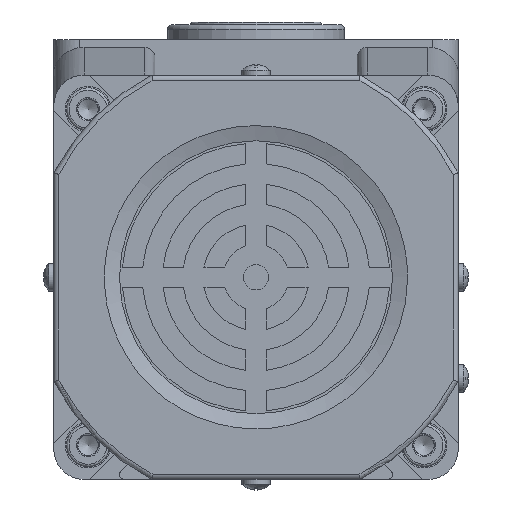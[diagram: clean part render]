
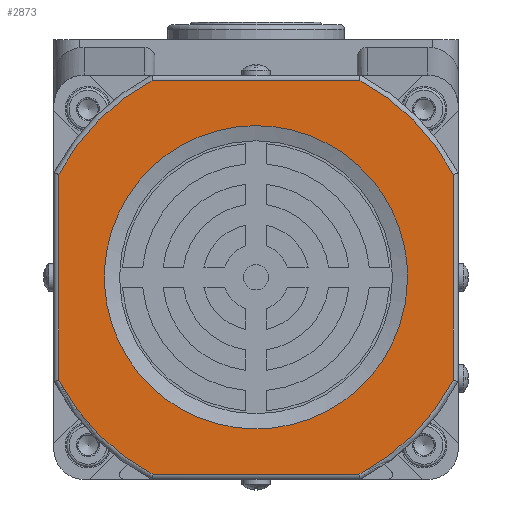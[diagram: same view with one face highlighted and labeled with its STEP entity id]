
A CAD part, front view. The second image highlights one B-rep face of the part: STEP entity #2873.
In plain terms, the highlighted planar face has unit normal (0, -1, 0).
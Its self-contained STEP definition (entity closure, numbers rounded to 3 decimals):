
#282=B_SPLINE_CURVE_WITH_KNOTS('',3,(#23627,#23628,#23629,#23630,#23631,
#23632,#23633,#23634,#23635,#23636,#23637,#23638,#23639,#23640,#23641,#23642,
#23643,#23644,#23645,#23646,#23647,#23648,#23649,#23650,#23651,#23652,#23653,
#23654,#23655,#23656,#23657,#23658,#23659,#23660,#23661,#23662,#23663,#23664,
#23665,#23666,#23667,#23668,#23669,#23670,#23671,#23672,#23673,#23674,#23675),
 .UNSPECIFIED.,.T.,.F.,(1,3,3,3,3,3,3,3,3,3,3,3,3,3,3,3,3,3,1),(-0.063,
0.,0.063,0.125,0.188,0.25,0.313,0.375,0.438,0.5,0.563,0.625,0.688,
0.75,0.813,0.875,0.938,1.,1.063),.UNSPECIFIED.);
#770=FACE_BOUND('',#4920,.T.);
#771=FACE_BOUND('',#4921,.T.);
#2873=ADVANCED_FACE('',(#770,#771),#3325,.T.);
#3325=PLANE('',#15223);
#4920=EDGE_LOOP('',(#8182));
#4921=EDGE_LOOP('',(#8183,#8184,#8185,#8186,#8187,#8188,#8189,#8190));
#8182=ORIENTED_EDGE('',*,*,#11009,.T.);
#8183=ORIENTED_EDGE('',*,*,#10994,.T.);
#8184=ORIENTED_EDGE('',*,*,#10988,.T.);
#8185=ORIENTED_EDGE('',*,*,#10990,.T.);
#8186=ORIENTED_EDGE('',*,*,#10996,.T.);
#8187=ORIENTED_EDGE('',*,*,#11002,.T.);
#8188=ORIENTED_EDGE('',*,*,#11008,.T.);
#8189=ORIENTED_EDGE('',*,*,#11006,.T.);
#8190=ORIENTED_EDGE('',*,*,#11000,.T.);
#9374=VERTEX_POINT('',#23545);
#9377=VERTEX_POINT('',#23555);
#9379=VERTEX_POINT('',#23565);
#9380=VERTEX_POINT('',#23575);
#9383=VERTEX_POINT('',#23587);
#9384=VERTEX_POINT('',#23597);
#9387=VERTEX_POINT('',#23609);
#9388=VERTEX_POINT('',#23619);
#9390=VERTEX_POINT('',#23676);
#10988=EDGE_CURVE('',#9374,#9377,#13542,.T.);
#10990=EDGE_CURVE('',#9377,#9379,#11964,.T.);
#10994=EDGE_CURVE('',#9380,#9374,#11967,.T.);
#10996=EDGE_CURVE('',#9379,#9383,#13543,.T.);
#11000=EDGE_CURVE('',#9384,#9380,#13546,.T.);
#11002=EDGE_CURVE('',#9383,#9387,#11968,.T.);
#11006=EDGE_CURVE('',#9388,#9384,#11971,.T.);
#11008=EDGE_CURVE('',#9387,#9388,#13548,.T.);
#11009=EDGE_CURVE('',#9390,#9390,#282,.T.);
#11964=LINE('',#23566,#12814);
#11967=LINE('',#23578,#12817);
#11968=LINE('',#23610,#12818);
#11971=LINE('',#23622,#12821);
#12814=VECTOR('',#18504,1.);
#12817=VECTOR('',#18509,1.);
#12818=VECTOR('',#18524,1.);
#12821=VECTOR('',#18529,1.);
#13542=CIRCLE('',#15089,44.);
#13543=CIRCLE('',#15093,44.);
#13546=CIRCLE('',#15097,44.);
#13548=CIRCLE('',#15102,44.);
#15089=AXIS2_PLACEMENT_3D('',#23556,#18500,#18501);
#15093=AXIS2_PLACEMENT_3D('',#23588,#18512,#18513);
#15097=AXIS2_PLACEMENT_3D('',#23600,#18520,#18521);
#15102=AXIS2_PLACEMENT_3D('',#23625,#18534,#18535);
#15223=AXIS2_PLACEMENT_3D('',#24065,#18874,#18875);
#18500=DIRECTION('',(0.,-1.,0.));
#18501=DIRECTION('',(1.,0.,0.));
#18504=DIRECTION('',(-1.,0.,0.));
#18509=DIRECTION('',(0.,0.,1.));
#18512=DIRECTION('',(0.,-1.,0.));
#18513=DIRECTION('',(1.,0.,0.));
#18520=DIRECTION('',(0.,-1.,0.));
#18521=DIRECTION('',(1.,0.,0.));
#18524=DIRECTION('',(0.,0.,-1.));
#18529=DIRECTION('',(1.,0.,0.));
#18534=DIRECTION('',(0.,-1.,0.));
#18535=DIRECTION('',(1.,0.,0.));
#18874=DIRECTION('',(0.,-1.,0.));
#18875=DIRECTION('',(1.,0.,0.));
#23545=CARTESIAN_POINT('',(39.,-180.,-26.628));
#23555=CARTESIAN_POINT('',(20.372,-180.,-8.));
#23556=CARTESIAN_POINT('',(0.,-180.,-47.));
#23565=CARTESIAN_POINT('',(-20.372,-180.,-8.));
#23566=CARTESIAN_POINT('',(-20.616,-180.,-8.));
#23575=CARTESIAN_POINT('',(39.,-180.,-67.372));
#23578=CARTESIAN_POINT('',(39.,-180.,-26.384));
#23587=CARTESIAN_POINT('',(-39.,-180.,-26.628));
#23588=CARTESIAN_POINT('',(0.,-180.,-47.));
#23597=CARTESIAN_POINT('',(20.372,-180.,-86.));
#23600=CARTESIAN_POINT('',(0.,-180.,-47.));
#23609=CARTESIAN_POINT('',(-39.,-180.,-67.372));
#23610=CARTESIAN_POINT('',(-39.,-180.,-67.616));
#23619=CARTESIAN_POINT('',(-20.372,-180.,-86.));
#23622=CARTESIAN_POINT('',(20.616,-180.,-86.));
#23625=CARTESIAN_POINT('',(0.,-180.,-47.));
#23627=CARTESIAN_POINT('',(30.,-180.,-47.));
#23628=CARTESIAN_POINT('',(30.,-180.,-50.939));
#23629=CARTESIAN_POINT('',(29.231,-180.,-54.764));
#23630=CARTESIAN_POINT('',(27.695,-180.,-58.472));
#23631=CARTESIAN_POINT('',(26.16,-180.,-62.18));
#23632=CARTESIAN_POINT('',(23.998,-180.,-65.428));
#23633=CARTESIAN_POINT('',(21.213,-180.,-68.213));
#23634=CARTESIAN_POINT('',(18.429,-180.,-70.998));
#23635=CARTESIAN_POINT('',(15.18,-180.,-73.159));
#23636=CARTESIAN_POINT('',(11.472,-180.,-74.696));
#23637=CARTESIAN_POINT('',(7.764,-180.,-76.232));
#23638=CARTESIAN_POINT('',(3.938,-180.,-77.));
#23639=CARTESIAN_POINT('',(0.,-180.,-77.));
#23640=CARTESIAN_POINT('',(-3.938,-180.,-77.));
#23641=CARTESIAN_POINT('',(-7.763,-180.,-76.231));
#23642=CARTESIAN_POINT('',(-11.472,-180.,-74.696));
#23643=CARTESIAN_POINT('',(-15.18,-180.,-73.16));
#23644=CARTESIAN_POINT('',(-18.428,-180.,-70.998));
#23645=CARTESIAN_POINT('',(-21.213,-180.,-68.213));
#23646=CARTESIAN_POINT('',(-23.998,-180.,-65.429));
#23647=CARTESIAN_POINT('',(-26.159,-180.,-62.18));
#23648=CARTESIAN_POINT('',(-27.696,-180.,-58.472));
#23649=CARTESIAN_POINT('',(-29.232,-180.,-54.764));
#23650=CARTESIAN_POINT('',(-30.,-180.,-50.938));
#23651=CARTESIAN_POINT('',(-30.,-180.,-47.));
#23652=CARTESIAN_POINT('',(-30.,-180.,-43.062));
#23653=CARTESIAN_POINT('',(-29.231,-180.,-39.237));
#23654=CARTESIAN_POINT('',(-27.696,-180.,-35.528));
#23655=CARTESIAN_POINT('',(-26.16,-180.,-31.82));
#23656=CARTESIAN_POINT('',(-23.998,-180.,-28.572));
#23657=CARTESIAN_POINT('',(-21.213,-180.,-25.787));
#23658=CARTESIAN_POINT('',(-18.429,-180.,-23.002));
#23659=CARTESIAN_POINT('',(-15.18,-180.,-20.841));
#23660=CARTESIAN_POINT('',(-11.472,-180.,-19.304));
#23661=CARTESIAN_POINT('',(-7.764,-180.,-17.768));
#23662=CARTESIAN_POINT('',(-3.938,-180.,-17.));
#23663=CARTESIAN_POINT('',(0.,-180.,-17.));
#23664=CARTESIAN_POINT('',(3.938,-180.,-17.));
#23665=CARTESIAN_POINT('',(7.763,-180.,-17.769));
#23666=CARTESIAN_POINT('',(11.472,-180.,-19.304));
#23667=CARTESIAN_POINT('',(15.18,-180.,-20.84));
#23668=CARTESIAN_POINT('',(18.428,-180.,-23.002));
#23669=CARTESIAN_POINT('',(21.213,-180.,-25.787));
#23670=CARTESIAN_POINT('',(23.998,-180.,-28.572));
#23671=CARTESIAN_POINT('',(26.159,-180.,-31.819));
#23672=CARTESIAN_POINT('',(27.696,-180.,-35.527));
#23673=CARTESIAN_POINT('',(29.232,-180.,-39.236));
#23674=CARTESIAN_POINT('',(30.,-180.,-43.06));
#23675=CARTESIAN_POINT('',(30.,-180.,-47.));
#23676=CARTESIAN_POINT('',(30.,-180.,-47.));
#24065=CARTESIAN_POINT('',(0.,-180.,-47.));
